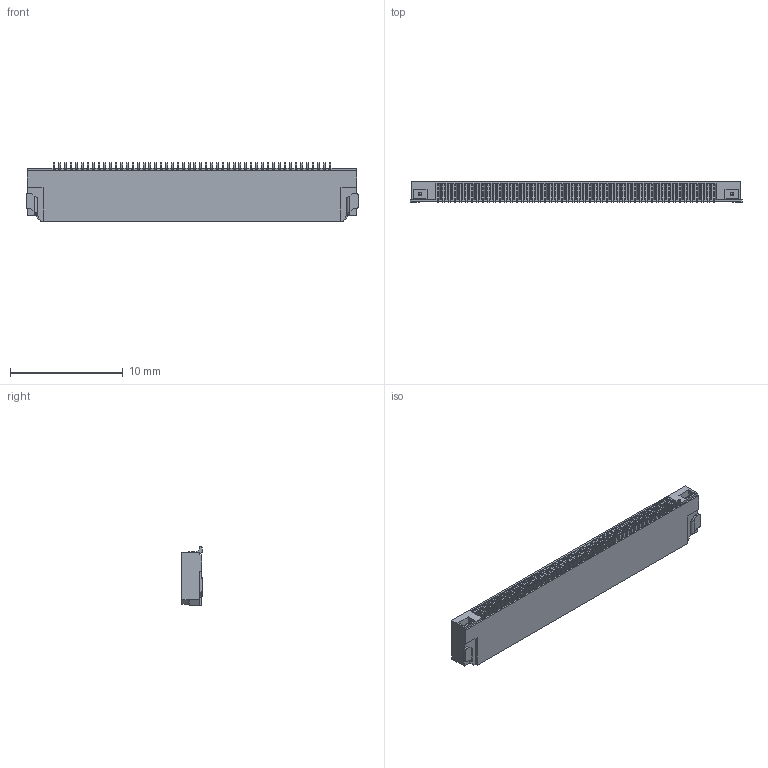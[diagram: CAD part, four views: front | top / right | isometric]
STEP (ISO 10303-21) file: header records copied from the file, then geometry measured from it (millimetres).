
FILE_DESCRIPTION((''),'2;1');
FILE_NAME('S-51555-050XX-XXX','2012-02-04T',('12114032'),(''),'PRO/ENGINEER BY PARAMETRIC TECHNOLOGY CORPORATION, 2009360','PRO/ENGINEER BY PARAMETRIC TECHNOLOGY CORPORATION, 2009360','');
FILE_SCHEMA(('CONFIG_CONTROL_DESIGN'));
Products named in the file (1): S-51555-050XX-XXX
Bounding box: 29.5 x 1.8 x 5.2 mm (x, y, z)
Volume: 150.9 mm3; surface area: 1184.4 mm2
Topology: 2 solids, 2 shells, 3453 faces, 12924 edges, 9223 vertices
Faces by surface type: plane 2341, cylinder 1100, bspline 8, torus 4
Entity records: 141426 total; most frequent: CARTESIAN_POINT 26164, ORIENTED_EDGE 25848, DIRECTION 24158, EDGE_CURVE 12924, VERTEX_POINT 9223, VECTOR 8448, LINE 8448, AXIS2_PLACEMENT_3D 7855
